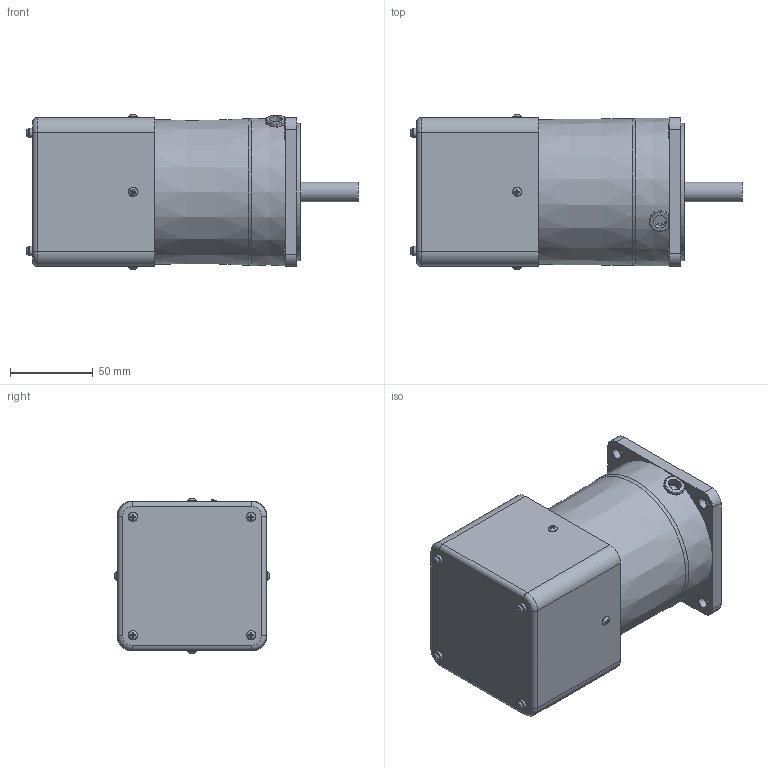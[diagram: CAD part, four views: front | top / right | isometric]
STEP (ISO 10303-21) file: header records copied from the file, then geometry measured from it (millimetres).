
FILE_DESCRIPTION((''),'2;1');
FILE_NAME('D:\STP파일\60W MOTOR\SPEED CONTROL TYPE\S9I60S-S.stp','2013-05-20T18:09:32',('leebh'),(''),'Autodesk Inventor 2011','Autodesk Inventor 2011','');
FILE_SCHEMA(('AUTOMOTIVE_DESIGN { 1 0 10303 214 1 1 1 1 }'));
Length unit declared in the file: millimetre
Products named in the file (1): 부품1
Bounding box: 200.75 x 93.89 x 93.89 mm (x, y, z)
Volume: 874963.6 mm3; surface area: 101213.9 mm2
Topology: 1 solids, 7 shells, 282 faces, 675 edges, 435 vertices
Faces by surface type: plane 173, cylinder 69, torus 26, bspline 8, cone 6
Full cylindrical faces by diameter (mm): 3 x8, 4.5 x4, 5.6 x12, 6.5 x4, 8 x1, 9.5 x4, 10 x1, 12 x1, 40 x1, 83 x1
Entity records: 8543 total; most frequent: CARTESIAN_POINT 2203, DIRECTION 1216, ORIENTED_EDGE 1186, EDGE_CURVE 593, AXIS2_PLACEMENT_3D 449, VERTEX_POINT 422, EDGE_LOOP 397, VECTOR 318
